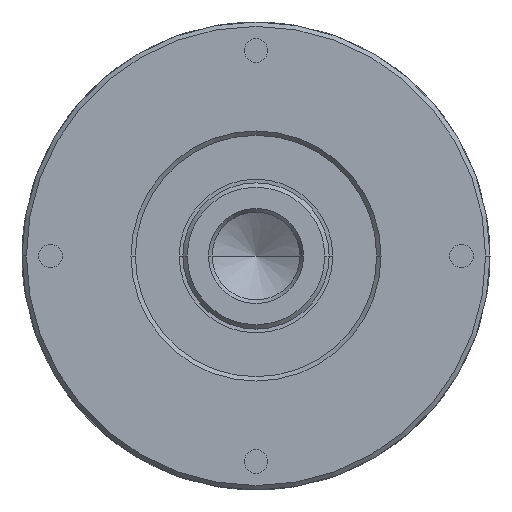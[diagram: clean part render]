
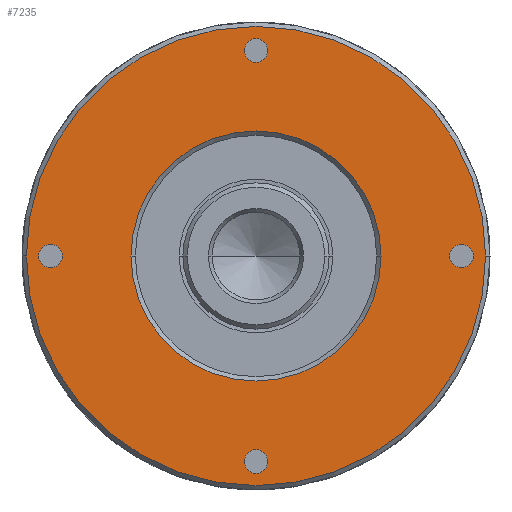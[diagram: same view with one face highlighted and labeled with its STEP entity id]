
A CAD part, left-side view. The second image highlights one B-rep face of the part: STEP entity #7235.
In plain terms, the highlighted planar face has unit normal (-1, 0, 0).
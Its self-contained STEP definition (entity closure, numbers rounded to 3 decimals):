
#6514=CARTESIAN_POINT('',(-4.9,14.05,0.));
#6515=DIRECTION('',(-1.,0.,0.));
#6516=DIRECTION('',(0.,-1.,0.));
#6517=AXIS2_PLACEMENT_3D('',#6514,#6515,#6516);
#6522=CARTESIAN_POINT('',(-4.9,14.05,0.));
#6523=DIRECTION('',(-1.,0.,0.));
#6524=DIRECTION('',(0.,1.,0.));
#6525=AXIS2_PLACEMENT_3D('',#6522,#6523,#6524);
#6530=CARTESIAN_POINT('',(-4.9,0.,14.05));
#6531=DIRECTION('',(-1.,0.,0.));
#6532=DIRECTION('',(0.,-1.,0.));
#6533=AXIS2_PLACEMENT_3D('',#6530,#6531,#6532);
#6538=CARTESIAN_POINT('',(-4.9,0.,14.05));
#6539=DIRECTION('',(-1.,0.,0.));
#6540=DIRECTION('',(0.,1.,0.));
#6541=AXIS2_PLACEMENT_3D('',#6538,#6539,#6540);
#6546=CARTESIAN_POINT('',(-4.9,-14.05,0.));
#6547=DIRECTION('',(-1.,0.,0.));
#6548=DIRECTION('',(0.,-1.,0.));
#6549=AXIS2_PLACEMENT_3D('',#6546,#6547,#6548);
#6554=CARTESIAN_POINT('',(-4.9,-14.05,0.));
#6555=DIRECTION('',(-1.,0.,0.));
#6556=DIRECTION('',(0.,1.,0.));
#6557=AXIS2_PLACEMENT_3D('',#6554,#6555,#6556);
#6562=CARTESIAN_POINT('',(-4.9,0.,-14.05));
#6563=DIRECTION('',(-1.,0.,0.));
#6564=DIRECTION('',(0.,-1.,0.));
#6565=AXIS2_PLACEMENT_3D('',#6562,#6563,#6564);
#6570=CARTESIAN_POINT('',(-4.9,0.,-14.05));
#6571=DIRECTION('',(-1.,0.,0.));
#6572=DIRECTION('',(0.,1.,0.));
#6573=AXIS2_PLACEMENT_3D('',#6570,#6571,#6572);
#6578=CARTESIAN_POINT('',(-4.9,0.,
0.));
#6579=DIRECTION('',(1.,0.,0.));
#6580=DIRECTION('',(0.,-1.,0.));
#6581=AXIS2_PLACEMENT_3D('',#6578,#6579,#6580);
#6586=CARTESIAN_POINT('',(-4.9,0.,
0.));
#6587=DIRECTION('',(1.,0.,0.));
#6588=DIRECTION('',(0.,1.,0.));
#6589=AXIS2_PLACEMENT_3D('',#6586,#6587,#6588);
#6594=CARTESIAN_POINT('',(-4.9,0.,0.));
#6595=DIRECTION('',(-1.,0.,0.));
#6596=DIRECTION('',(0.,-1.,0.));
#6597=AXIS2_PLACEMENT_3D('',#6594,#6595,#6596);
#6602=CARTESIAN_POINT('',(-4.9,0.,0.));
#6603=DIRECTION('',(-1.,0.,0.));
#6604=DIRECTION('',(0.,1.,0.));
#6605=AXIS2_PLACEMENT_3D('',#6602,#6603,#6604);
#7034=CARTESIAN_POINT('',(-4.9,13.25,0.));
#7035=CARTESIAN_POINT('',(-4.9,14.85,0.));
#7036=VERTEX_POINT('',#7034);
#7037=VERTEX_POINT('',#7035);
#7042=CARTESIAN_POINT('',(-4.9,-15.7,
0.));
#7043=CARTESIAN_POINT('',(-4.9,15.7,0.));
#7044=VERTEX_POINT('',#7042);
#7045=VERTEX_POINT('',#7043);
#7078=CARTESIAN_POINT('',(-4.9,-0.8,14.05));
#7079=VERTEX_POINT('',#7078);
#7080=CARTESIAN_POINT('',(-4.9,0.8,14.05));
#7081=VERTEX_POINT('',#7080);
#7082=CARTESIAN_POINT('',(-4.9,-14.85,0.));
#7083=VERTEX_POINT('',#7082);
#7084=CARTESIAN_POINT('',(-4.9,-13.25,0.));
#7085=VERTEX_POINT('',#7084);
#7086=CARTESIAN_POINT('',(-4.9,-0.8,-14.05));
#7087=VERTEX_POINT('',#7086);
#7088=CARTESIAN_POINT('',(-4.9,0.8,-14.05));
#7089=VERTEX_POINT('',#7088);
#7098=CARTESIAN_POINT('',(-4.9,-8.55,0.));
#7099=CARTESIAN_POINT('',(-4.9,8.55,0.));
#7100=VERTEX_POINT('',#7098);
#7101=VERTEX_POINT('',#7099);
#7196=CARTESIAN_POINT('',(-4.9,0.,0.));
#7197=DIRECTION('',(1.,0.,0.));
#7198=DIRECTION('',(0.,-1.,0.));
#7199=AXIS2_PLACEMENT_3D('',#7196,#7197,#7198);
#7200=PLANE('',#7199);
#7201=ORIENTED_EDGE('',*,*,#7176,.T.);
#7202=ORIENTED_EDGE('',*,*,#7190,.T.);
#7203=EDGE_LOOP('',(#7201,#7202));
#7204=FACE_OUTER_BOUND('',#7203,.F.);
#7206=ORIENTED_EDGE('',*,*,#7205,.T.);
#7208=ORIENTED_EDGE('',*,*,#7207,.T.);
#7209=EDGE_LOOP('',(#7206,#7208));
#7210=FACE_BOUND('',#7209,.F.);
#7212=ORIENTED_EDGE('',*,*,#7211,.T.);
#7214=ORIENTED_EDGE('',*,*,#7213,.T.);
#7215=EDGE_LOOP('',(#7212,#7214));
#7216=FACE_BOUND('',#7215,.F.);
#7218=ORIENTED_EDGE('',*,*,#7217,.T.);
#7220=ORIENTED_EDGE('',*,*,#7219,.T.);
#7221=EDGE_LOOP('',(#7218,#7220));
#7222=FACE_BOUND('',#7221,.F.);
#7224=ORIENTED_EDGE('',*,*,#7223,.T.);
#7226=ORIENTED_EDGE('',*,*,#7225,.T.);
#7227=EDGE_LOOP('',(#7224,#7226));
#7228=FACE_BOUND('',#7227,.F.);
#7230=ORIENTED_EDGE('',*,*,#7229,.T.);
#7232=ORIENTED_EDGE('',*,*,#7231,.T.);
#7233=EDGE_LOOP('',(#7230,#7232));
#7234=FACE_BOUND('',#7233,.F.);
#6518=CIRCLE('',#6517,0.8);
#6526=CIRCLE('',#6525,0.8);
#6534=CIRCLE('',#6533,0.8);
#6542=CIRCLE('',#6541,0.8);
#6550=CIRCLE('',#6549,0.8);
#6558=CIRCLE('',#6557,0.8);
#6566=CIRCLE('',#6565,0.8);
#6574=CIRCLE('',#6573,0.8);
#6582=CIRCLE('',#6581,15.7);
#6590=CIRCLE('',#6589,15.7);
#6598=CIRCLE('',#6597,8.55);
#6606=CIRCLE('',#6605,8.55);
#7176=EDGE_CURVE('',#7044,#7045,#6582,.T.);
#7190=EDGE_CURVE('',#7045,#7044,#6590,.T.);
#7205=EDGE_CURVE('',#7079,#7081,#6534,.T.);
#7207=EDGE_CURVE('',#7081,#7079,#6542,.T.);
#7211=EDGE_CURVE('',#7083,#7085,#6550,.T.);
#7213=EDGE_CURVE('',#7085,#7083,#6558,.T.);
#7217=EDGE_CURVE('',#7087,#7089,#6566,.T.);
#7219=EDGE_CURVE('',#7089,#7087,#6574,.T.);
#7223=EDGE_CURVE('',#7036,#7037,#6518,.T.);
#7225=EDGE_CURVE('',#7037,#7036,#6526,.T.);
#7229=EDGE_CURVE('',#7100,#7101,#6598,.T.);
#7231=EDGE_CURVE('',#7101,#7100,#6606,.T.);
#7235=ADVANCED_FACE('',(#7204,#7210,#7216,#7222,#7228,#7234),#7200,.F.);
